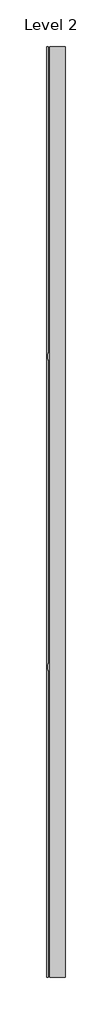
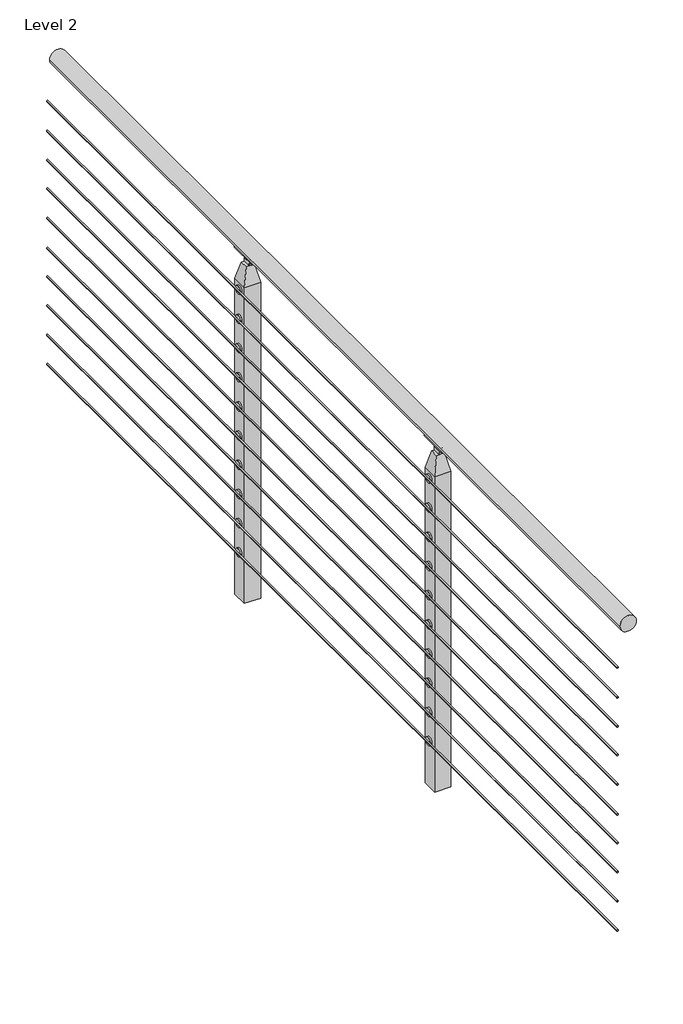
# One storey, part 6 of 17: 1 railing.
"""IFC4 building model written with IfcOpenShell, lengths in millimetres."""

from ifc_helpers import new_model, si_unit, point, frame, frame_2d, origin, place, context, project, spatial, polyline, circle_curve, trimmed, segment, composite_curve, outline, extrude, faceted_brep, element, save
from ifc_brep_helpers import plane_surface, cylinder_surface, revolved_surface, advanced_brep

model = new_model("IFC4")

# Units and contexts
model_context = context("Model", 3, world=origin())
ifc_project = project(units=[si_unit("LENGTHUNIT", "METRE", prefix="MILLI")], contexts=[model_context])

# Site, building, storey
site = spatial("IfcSite", under=ifc_project)
building = spatial("IfcBuilding", under=site)
storey = spatial("IfcBuildingStorey", under=building, Name="Level 2", Elevation=3048.0)

# Railing
placement = place(None, origin())
element("IfcRailing", 1, ObjectType="VIVA-CUBE-Multiline-Cable-Weld Mount-Straight", at=placement, inside=storey, context=model_context, shape_type="SolidModel", body=[
    extrude(outline(composite_curve([segment(trimmed(circle_curve(frame_2d((4102.1, 46488.1572927)), 25.4), [point((4102.1, 46513.5572927))], [point((4102.1, 46462.7572927))], False, "CARTESIAN"), True, "CONTINUOUS"), segment(trimmed(circle_curve(frame_2d((4102.1, 46488.1572927)), 25.4), [point((4102.1, 46462.7572927))], [point((4102.1, 46513.5572927))], False, "CARTESIAN"), True, "CONTINUOUS")], self_intersect=False)), frame((0.0, -68527.1034511, 0.0), z_axis=(0.0, 1.0, 0.0), x_axis=(0.0, 0.0, 1.0)), (0.0, 0.0, 1.0), 3048.0),
    extrude(outline(composite_curve([segment(trimmed(circle_curve(frame_2d((3970.1724, 46455.1372927)), 2.3876), [point((3970.1724, 46452.7496927))], [point((3970.1724, 46457.5248927))], False, "CARTESIAN"), True, "CONTINUOUS"), segment(trimmed(circle_curve(frame_2d((3970.1724, 46455.1372927)), 2.3876), [point((3970.1724, 46457.5248927))], [point((3970.1724, 46452.7496927))], False, "CARTESIAN"), True, "CONTINUOUS")], self_intersect=False)), frame((0.0, -68527.1034511, 0.0), z_axis=(0.0, 1.0, 0.0), x_axis=(0.0, 0.0, 1.0)), (0.0, 0.0, 1.0), 3048.0),
    extrude(outline(composite_curve([segment(trimmed(circle_curve(frame_2d((3872.3824, 46455.1372927)), 2.3876), [point((3872.3824, 46452.7496927))], [point((3872.3824, 46457.5248927))], False, "CARTESIAN"), True, "CONTINUOUS"), segment(trimmed(circle_curve(frame_2d((3872.3824, 46455.1372927)), 2.3876), [point((3872.3824, 46457.5248927))], [point((3872.3824, 46452.7496927))], False, "CARTESIAN"), True, "CONTINUOUS")], self_intersect=False)), frame((0.0, -68527.1034511, 0.0), z_axis=(0.0, 1.0, 0.0), x_axis=(0.0, 0.0, 1.0)), (0.0, 0.0, 1.0), 3048.0),
    extrude(outline(composite_curve([segment(trimmed(circle_curve(frame_2d((3777.1324, 46455.1372927)), 2.3876), [point((3777.1324, 46452.7496927))], [point((3777.1324, 46457.5248927))], False, "CARTESIAN"), True, "CONTINUOUS"), segment(trimmed(circle_curve(frame_2d((3777.1324, 46455.1372927)), 2.3876), [point((3777.1324, 46457.5248927))], [point((3777.1324, 46452.7496927))], False, "CARTESIAN"), True, "CONTINUOUS")], self_intersect=False)), frame((0.0, -68527.1034511, 0.0), z_axis=(0.0, 1.0, 0.0), x_axis=(0.0, 0.0, 1.0)), (0.0, 0.0, 1.0), 3048.0),
    extrude(outline(composite_curve([segment(trimmed(circle_curve(frame_2d((3684.4224, 46455.1372927)), 2.3876), [point((3684.4224, 46452.7496927))], [point((3684.4224, 46457.5248927))], False, "CARTESIAN"), True, "CONTINUOUS"), segment(trimmed(circle_curve(frame_2d((3684.4224, 46455.1372927)), 2.3876), [point((3684.4224, 46457.5248927))], [point((3684.4224, 46452.7496927))], False, "CARTESIAN"), True, "CONTINUOUS")], self_intersect=False)), frame((0.0, -68527.1034511, 0.0), z_axis=(0.0, 1.0, 0.0), x_axis=(0.0, 0.0, 1.0)), (0.0, 0.0, 1.0), 3048.0),
    extrude(outline(composite_curve([segment(trimmed(circle_curve(frame_2d((3587.9024, 46455.1372927)), 2.3876), [point((3587.9024, 46452.7496927))], [point((3587.9024, 46457.5248927))], False, "CARTESIAN"), True, "CONTINUOUS"), segment(trimmed(circle_curve(frame_2d((3587.9024, 46455.1372927)), 2.3876), [point((3587.9024, 46457.5248927))], [point((3587.9024, 46452.7496927))], False, "CARTESIAN"), True, "CONTINUOUS")], self_intersect=False)), frame((0.0, -68527.1034511, 0.0), z_axis=(0.0, 1.0, 0.0), x_axis=(0.0, 0.0, 1.0)), (0.0, 0.0, 1.0), 3048.0),
    extrude(outline(composite_curve([segment(trimmed(circle_curve(frame_2d((3490.1124, 46455.1372927)), 2.3876), [point((3490.1124, 46452.7496927))], [point((3490.1124, 46457.5248927))], False, "CARTESIAN"), True, "CONTINUOUS"), segment(trimmed(circle_curve(frame_2d((3490.1124, 46455.1372927)), 2.3876), [point((3490.1124, 46457.5248927))], [point((3490.1124, 46452.7496927))], False, "CARTESIAN"), True, "CONTINUOUS")], self_intersect=False)), frame((0.0, -68527.1034511, 0.0), z_axis=(0.0, 1.0, 0.0), x_axis=(0.0, 0.0, 1.0)), (0.0, 0.0, 1.0), 3048.0),
    extrude(outline(composite_curve([segment(trimmed(circle_curve(frame_2d((3397.4024, 46455.1372927)), 2.3876), [point((3397.4024, 46452.7496927))], [point((3397.4024, 46457.5248927))], False, "CARTESIAN"), True, "CONTINUOUS"), segment(trimmed(circle_curve(frame_2d((3397.4024, 46455.1372927)), 2.3876), [point((3397.4024, 46457.5248927))], [point((3397.4024, 46452.7496927))], False, "CARTESIAN"), True, "CONTINUOUS")], self_intersect=False)), frame((0.0, -68527.1034511, 0.0), z_axis=(0.0, 1.0, 0.0), x_axis=(0.0, 0.0, 1.0)), (0.0, 0.0, 1.0), 3048.0),
    extrude(outline(composite_curve([segment(trimmed(circle_curve(frame_2d((3302.1524, 46455.1372927)), 2.3876), [point((3302.1524, 46452.7496927))], [point((3302.1524, 46457.5248927))], False, "CARTESIAN"), True, "CONTINUOUS"), segment(trimmed(circle_curve(frame_2d((3302.1524, 46455.1372927)), 2.3876), [point((3302.1524, 46457.5248927))], [point((3302.1524, 46452.7496927))], False, "CARTESIAN"), True, "CONTINUOUS")], self_intersect=False)), frame((0.0, -68527.1034511, 0.0), z_axis=(0.0, 1.0, 0.0), x_axis=(0.0, 0.0, 1.0)), (0.0, 0.0, 1.0), 3048.0),
    extrude(outline(composite_curve([segment(trimmed(circle_curve(frame_2d((3206.9024, 46455.1372927)), 2.3876), [point((3206.9024, 46452.7496927))], [point((3206.9024, 46457.5248927))], False, "CARTESIAN"), True, "CONTINUOUS"), segment(trimmed(circle_curve(frame_2d((3206.9024, 46455.1372927)), 2.3876), [point((3206.9024, 46457.5248927))], [point((3206.9024, 46452.7496927))], False, "CARTESIAN"), True, "CONTINUOUS")], self_intersect=False)), frame((0.0, -68527.1034511, 0.0), z_axis=(0.0, 1.0, 0.0), x_axis=(0.0, 0.0, 1.0)), (0.0, 0.0, 1.0), 3048.0),
    extrude(outline(composite_curve([segment(trimmed(circle_curve(frame_2d((3111.6524, 46455.1372927)), 2.3876), [point((3111.6524, 46452.7496927))], [point((3111.6524, 46457.5248927))], False, "CARTESIAN"), True, "CONTINUOUS"), segment(trimmed(circle_curve(frame_2d((3111.6524, 46455.1372927)), 2.3876), [point((3111.6524, 46457.5248927))], [point((3111.6524, 46452.7496927))], False, "CARTESIAN"), True, "CONTINUOUS")], self_intersect=False)), frame((0.0, -68527.1034511, 0.0), z_axis=(0.0, 1.0, 0.0), x_axis=(0.0, 0.0, 1.0)), (0.0, 0.0, 1.0), 3048.0),
    advanced_brep(
    [(46457.4141185, -66481.6432432, 3111.5), (46457.4141185, -66506.9761591, 3111.5), (46457.4141185, -66494.3097011, 3111.5), (46462.7481185, -66481.6432432, 3111.5), (46462.7481185, -66506.9761591, 3111.5), (46462.7481185, -66494.3097011, 3111.5)],
    [
        (0, 1, circle_curve(frame((46457.4141185, -66494.3097011, 3111.5), z_axis=(-1.0, 0.0, 0.0), x_axis=(0.0, -1.0, 0.0)), 12.666458)),
        (1, 2),
        (2, 0),
        (1, 0, circle_curve(frame((46457.4141185, -66494.3097011, 3111.5), z_axis=(-1.0, 0.0, 0.0), x_axis=(0.0, -1.0, 0.0)), 12.666458)),
        (3, 4, circle_curve(frame((46462.7481185, -66494.3097011, 3111.5), z_axis=(-1.0, 0.0, 0.0), x_axis=(0.0, -1.0, 0.0)), 12.666458)),
        (4, 1),
        (0, 3),
        (4, 3, circle_curve(frame((46462.7481185, -66494.3097011, 3111.5), z_axis=(-1.0, 0.0, 0.0), x_axis=(0.0, -1.0, 0.0)), 12.666458)),
        (5, 4),
        (3, 5),
    ],
    [
        plane_surface(frame((46457.4141185, -66494.3097011, 3111.5), z_axis=(-1.0, 0.0, 0.0), x_axis=(0.0, -1.0, 0.0))),
        cylinder_surface(frame((46589.7572927, -66494.3097011, 3111.5), z_axis=(1.0, 0.0, 0.0), x_axis=(0.0, -1.0, 0.0)), 12.666458),
        plane_surface(frame((46462.7481185, -66494.3097011, 3111.5), z_axis=(1.0, 0.0, 0.0), x_axis=(0.0, -1.0, 0.0))),
    ],
    [
        (0, [[1, 2, 3]]),
        (0, [[4, -3, -2]]),
        (1, [[5, 6, -1, 7]]),
        (1, [[8, -7, -4, -6]]),
        (2, [[9, -5, 10]]),
        (2, [[-10, -8, -9]]),
    ],
),
    advanced_brep(
    [(46457.4141185, -66481.6432432, 3206.75), (46457.4141185, -66506.9761591, 3206.75), (46457.4141185, -66494.3097011, 3206.75), (46462.7481185, -66481.6432432, 3206.75), (46462.7481185, -66506.9761591, 3206.75), (46462.7481185, -66494.3097011, 3206.75)],
    [
        (0, 1, circle_curve(frame((46457.4141185, -66494.3097011, 3206.75), z_axis=(-1.0, 0.0, 0.0), x_axis=(0.0, -1.0, 0.0)), 12.666458)),
        (1, 2),
        (2, 0),
        (1, 0, circle_curve(frame((46457.4141185, -66494.3097011, 3206.75), z_axis=(-1.0, 0.0, 0.0), x_axis=(0.0, -1.0, 0.0)), 12.666458)),
        (3, 4, circle_curve(frame((46462.7481185, -66494.3097011, 3206.75), z_axis=(-1.0, 0.0, 0.0), x_axis=(0.0, -1.0, 0.0)), 12.666458)),
        (4, 1),
        (0, 3),
        (4, 3, circle_curve(frame((46462.7481185, -66494.3097011, 3206.75), z_axis=(-1.0, 0.0, 0.0), x_axis=(0.0, -1.0, 0.0)), 12.666458)),
        (5, 4),
        (3, 5),
    ],
    [
        plane_surface(frame((46457.4141185, -66494.3097011, 3206.75), z_axis=(-1.0, 0.0, 0.0), x_axis=(0.0, -1.0, 0.0))),
        cylinder_surface(frame((46589.7572927, -66494.3097011, 3206.75), z_axis=(1.0, 0.0, 0.0), x_axis=(0.0, -1.0, 0.0)), 12.666458),
        plane_surface(frame((46462.7481185, -66494.3097011, 3206.75), z_axis=(1.0, 0.0, 0.0), x_axis=(0.0, -1.0, 0.0))),
    ],
    [
        (0, [[1, 2, 3]]),
        (0, [[4, -3, -2]]),
        (1, [[5, 6, -1, 7]]),
        (1, [[8, -7, -4, -6]]),
        (2, [[9, -5, 10]]),
        (2, [[-10, -8, -9]]),
    ],
),
    advanced_brep(
    [(46457.4141185, -66481.6432432, 3302.0), (46457.4141185, -66506.9761591, 3302.0), (46457.4141185, -66494.3097011, 3302.0), (46462.7481185, -66481.6432432, 3302.0), (46462.7481185, -66506.9761591, 3302.0), (46462.7481185, -66494.3097011, 3302.0)],
    [
        (0, 1, circle_curve(frame((46457.4141185, -66494.3097011, 3302.0), z_axis=(-1.0, 0.0, 0.0), x_axis=(0.0, -1.0, 0.0)), 12.666458)),
        (1, 2),
        (2, 0),
        (1, 0, circle_curve(frame((46457.4141185, -66494.3097011, 3302.0), z_axis=(-1.0, 0.0, 0.0), x_axis=(0.0, -1.0, 0.0)), 12.666458)),
        (3, 4, circle_curve(frame((46462.7481185, -66494.3097011, 3302.0), z_axis=(-1.0, 0.0, 0.0), x_axis=(0.0, -1.0, 0.0)), 12.666458)),
        (4, 1),
        (0, 3),
        (4, 3, circle_curve(frame((46462.7481185, -66494.3097011, 3302.0), z_axis=(-1.0, 0.0, 0.0), x_axis=(0.0, -1.0, 0.0)), 12.666458)),
        (5, 4),
        (3, 5),
    ],
    [
        plane_surface(frame((46457.4141185, -66494.3097011, 3302.0), z_axis=(-1.0, 0.0, 0.0), x_axis=(0.0, -1.0, 0.0))),
        cylinder_surface(frame((46589.7572927, -66494.3097011, 3302.0), z_axis=(1.0, 0.0, 0.0), x_axis=(0.0, -1.0, 0.0)), 12.666458),
        plane_surface(frame((46462.7481185, -66494.3097011, 3302.0), z_axis=(1.0, 0.0, 0.0), x_axis=(0.0, -1.0, 0.0))),
    ],
    [
        (0, [[1, 2, 3]]),
        (0, [[4, -3, -2]]),
        (1, [[5, 6, -1, 7]]),
        (1, [[8, -7, -4, -6]]),
        (2, [[9, -5, 10]]),
        (2, [[-10, -8, -9]]),
    ],
),
    advanced_brep(
    [(46457.4141185, -66481.6432432, 3397.25), (46457.4141185, -66506.9761591, 3397.25), (46457.4141185, -66494.3097011, 3397.25), (46462.7481185, -66481.6432432, 3397.25), (46462.7481185, -66506.9761591, 3397.25), (46462.7481185, -66494.3097011, 3397.25)],
    [
        (0, 1, circle_curve(frame((46457.4141185, -66494.3097011, 3397.25), z_axis=(-1.0, 0.0, 0.0), x_axis=(0.0, -1.0, 0.0)), 12.666458)),
        (1, 2),
        (2, 0),
        (1, 0, circle_curve(frame((46457.4141185, -66494.3097011, 3397.25), z_axis=(-1.0, 0.0, 0.0), x_axis=(0.0, -1.0, 0.0)), 12.666458)),
        (3, 4, circle_curve(frame((46462.7481185, -66494.3097011, 3397.25), z_axis=(-1.0, 0.0, 0.0), x_axis=(0.0, -1.0, 0.0)), 12.666458)),
        (4, 1),
        (0, 3),
        (4, 3, circle_curve(frame((46462.7481185, -66494.3097011, 3397.25), z_axis=(-1.0, 0.0, 0.0), x_axis=(0.0, -1.0, 0.0)), 12.666458)),
        (5, 4),
        (3, 5),
    ],
    [
        plane_surface(frame((46457.4141185, -66494.3097011, 3397.25), z_axis=(-1.0, 0.0, 0.0), x_axis=(0.0, -1.0, 0.0))),
        cylinder_surface(frame((46589.7572927, -66494.3097011, 3397.25), z_axis=(1.0, 0.0, 0.0), x_axis=(0.0, -1.0, 0.0)), 12.666458),
        plane_surface(frame((46462.7481185, -66494.3097011, 3397.25), z_axis=(1.0, 0.0, 0.0), x_axis=(0.0, -1.0, 0.0))),
    ],
    [
        (0, [[1, 2, 3]]),
        (0, [[4, -3, -2]]),
        (1, [[5, 6, -1, 7]]),
        (1, [[8, -7, -4, -6]]),
        (2, [[9, -5, 10]]),
        (2, [[-10, -8, -9]]),
    ],
),
    advanced_brep(
    [(46457.4141185, -66481.6432432, 3492.5), (46457.4141185, -66506.9761591, 3492.5), (46457.4141185, -66494.3097011, 3492.5), (46462.7481185, -66481.6432432, 3492.5), (46462.7481185, -66506.9761591, 3492.5), (46462.7481185, -66494.3097011, 3492.5)],
    [
        (0, 1, circle_curve(frame((46457.4141185, -66494.3097011, 3492.5), z_axis=(-1.0, 0.0, 0.0), x_axis=(0.0, -1.0, 0.0)), 12.666458)),
        (1, 2),
        (2, 0),
        (1, 0, circle_curve(frame((46457.4141185, -66494.3097011, 3492.5), z_axis=(-1.0, 0.0, 0.0), x_axis=(0.0, -1.0, 0.0)), 12.666458)),
        (3, 4, circle_curve(frame((46462.7481185, -66494.3097011, 3492.5), z_axis=(-1.0, 0.0, 0.0), x_axis=(0.0, -1.0, 0.0)), 12.666458)),
        (4, 1),
        (0, 3),
        (4, 3, circle_curve(frame((46462.7481185, -66494.3097011, 3492.5), z_axis=(-1.0, 0.0, 0.0), x_axis=(0.0, -1.0, 0.0)), 12.666458)),
        (5, 4),
        (3, 5),
    ],
    [
        plane_surface(frame((46457.4141185, -66494.3097011, 3492.5), z_axis=(-1.0, 0.0, 0.0), x_axis=(0.0, -1.0, 0.0))),
        cylinder_surface(frame((46589.7572927, -66494.3097011, 3492.5), z_axis=(1.0, 0.0, 0.0), x_axis=(0.0, -1.0, 0.0)), 12.666458),
        plane_surface(frame((46462.7481185, -66494.3097011, 3492.5), z_axis=(1.0, 0.0, 0.0), x_axis=(0.0, -1.0, 0.0))),
    ],
    [
        (0, [[1, 2, 3]]),
        (0, [[4, -3, -2]]),
        (1, [[5, 6, -1, 7]]),
        (1, [[8, -7, -4, -6]]),
        (2, [[9, -5, 10]]),
        (2, [[-10, -8, -9]]),
    ],
),
    advanced_brep(
    [(46457.4141185, -66481.6432432, 3587.75), (46457.4141185, -66506.9761591, 3587.75), (46457.4141185, -66494.3097011, 3587.75), (46462.7481185, -66481.6432432, 3587.75), (46462.7481185, -66506.9761591, 3587.75), (46462.7481185, -66494.3097011, 3587.75)],
    [
        (0, 1, circle_curve(frame((46457.4141185, -66494.3097011, 3587.75), z_axis=(-1.0, 0.0, 0.0), x_axis=(0.0, -1.0, 0.0)), 12.666458)),
        (1, 2),
        (2, 0),
        (1, 0, circle_curve(frame((46457.4141185, -66494.3097011, 3587.75), z_axis=(-1.0, 0.0, 0.0), x_axis=(0.0, -1.0, 0.0)), 12.666458)),
        (3, 4, circle_curve(frame((46462.7481185, -66494.3097011, 3587.75), z_axis=(-1.0, 0.0, 0.0), x_axis=(0.0, -1.0, 0.0)), 12.666458)),
        (4, 1),
        (0, 3),
        (4, 3, circle_curve(frame((46462.7481185, -66494.3097011, 3587.75), z_axis=(-1.0, 0.0, 0.0), x_axis=(0.0, -1.0, 0.0)), 12.666458)),
        (5, 4),
        (3, 5),
    ],
    [
        plane_surface(frame((46457.4141185, -66494.3097011, 3587.75), z_axis=(-1.0, 0.0, 0.0), x_axis=(0.0, -1.0, 0.0))),
        cylinder_surface(frame((46589.7572927, -66494.3097011, 3587.75), z_axis=(1.0, 0.0, 0.0), x_axis=(0.0, -1.0, 0.0)), 12.666458),
        plane_surface(frame((46462.7481185, -66494.3097011, 3587.75), z_axis=(1.0, 0.0, 0.0), x_axis=(0.0, -1.0, 0.0))),
    ],
    [
        (0, [[1, 2, 3]]),
        (0, [[4, -3, -2]]),
        (1, [[5, 6, -1, 7]]),
        (1, [[8, -7, -4, -6]]),
        (2, [[9, -5, 10]]),
        (2, [[-10, -8, -9]]),
    ],
),
    advanced_brep(
    [(46457.4141185, -66481.6432432, 3683.0), (46457.4141185, -66506.9761591, 3683.0), (46457.4141185, -66494.3097011, 3683.0), (46462.7481185, -66481.6432432, 3683.0), (46462.7481185, -66506.9761591, 3683.0), (46462.7481185, -66494.3097011, 3683.0)],
    [
        (0, 1, circle_curve(frame((46457.4141185, -66494.3097011, 3683.0), z_axis=(-1.0, 0.0, 0.0), x_axis=(0.0, -1.0, 0.0)), 12.666458)),
        (1, 2),
        (2, 0),
        (1, 0, circle_curve(frame((46457.4141185, -66494.3097011, 3683.0), z_axis=(-1.0, 0.0, 0.0), x_axis=(0.0, -1.0, 0.0)), 12.666458)),
        (3, 4, circle_curve(frame((46462.7481185, -66494.3097011, 3683.0), z_axis=(-1.0, 0.0, 0.0), x_axis=(0.0, -1.0, 0.0)), 12.666458)),
        (4, 1),
        (0, 3),
        (4, 3, circle_curve(frame((46462.7481185, -66494.3097011, 3683.0), z_axis=(-1.0, 0.0, 0.0), x_axis=(0.0, -1.0, 0.0)), 12.666458)),
        (5, 4),
        (3, 5),
    ],
    [
        plane_surface(frame((46457.4141185, -66494.3097011, 3683.0), z_axis=(-1.0, 0.0, 0.0), x_axis=(0.0, -1.0, 0.0))),
        cylinder_surface(frame((46589.7572927, -66494.3097011, 3683.0), z_axis=(1.0, 0.0, 0.0), x_axis=(0.0, -1.0, 0.0)), 12.666458),
        plane_surface(frame((46462.7481185, -66494.3097011, 3683.0), z_axis=(1.0, 0.0, 0.0), x_axis=(0.0, -1.0, 0.0))),
    ],
    [
        (0, [[1, 2, 3]]),
        (0, [[4, -3, -2]]),
        (1, [[5, 6, -1, 7]]),
        (1, [[8, -7, -4, -6]]),
        (2, [[9, -5, 10]]),
        (2, [[-10, -8, -9]]),
    ],
),
    advanced_brep(
    [(46457.4141185, -66481.6432432, 3778.25), (46457.4141185, -66506.9761591, 3778.25), (46457.4141185, -66494.3097011, 3778.25), (46462.7481185, -66481.6432432, 3778.25), (46462.7481185, -66506.9761591, 3778.25), (46462.7481185, -66494.3097011, 3778.25)],
    [
        (0, 1, circle_curve(frame((46457.4141185, -66494.3097011, 3778.25), z_axis=(-1.0, 0.0, 0.0), x_axis=(0.0, -1.0, 0.0)), 12.666458)),
        (1, 2),
        (2, 0),
        (1, 0, circle_curve(frame((46457.4141185, -66494.3097011, 3778.25), z_axis=(-1.0, 0.0, 0.0), x_axis=(0.0, -1.0, 0.0)), 12.666458)),
        (3, 4, circle_curve(frame((46462.7481185, -66494.3097011, 3778.25), z_axis=(-1.0, 0.0, 0.0), x_axis=(0.0, -1.0, 0.0)), 12.666458)),
        (4, 1),
        (0, 3),
        (4, 3, circle_curve(frame((46462.7481185, -66494.3097011, 3778.25), z_axis=(-1.0, 0.0, 0.0), x_axis=(0.0, -1.0, 0.0)), 12.666458)),
        (5, 4),
        (3, 5),
    ],
    [
        plane_surface(frame((46457.4141185, -66494.3097011, 3778.25), z_axis=(-1.0, 0.0, 0.0), x_axis=(0.0, -1.0, 0.0))),
        cylinder_surface(frame((46589.7572927, -66494.3097011, 3778.25), z_axis=(1.0, 0.0, 0.0), x_axis=(0.0, -1.0, 0.0)), 12.666458),
        plane_surface(frame((46462.7481185, -66494.3097011, 3778.25), z_axis=(1.0, 0.0, 0.0), x_axis=(0.0, -1.0, 0.0))),
    ],
    [
        (0, [[1, 2, 3]]),
        (0, [[4, -3, -2]]),
        (1, [[5, 6, -1, 7]]),
        (1, [[8, -7, -4, -6]]),
        (2, [[9, -5, 10]]),
        (2, [[-10, -8, -9]]),
    ],
),
    advanced_brep(
    [(46457.4141185, -66481.6432432, 3873.5), (46457.4141185, -66506.9761591, 3873.5), (46457.4141185, -66494.3097011, 3873.5), (46462.7481185, -66481.6432432, 3873.5), (46462.7481185, -66506.9761591, 3873.5), (46462.7481185, -66494.3097011, 3873.5)],
    [
        (0, 1, circle_curve(frame((46457.4141185, -66494.3097011, 3873.5), z_axis=(-1.0, 0.0, 0.0), x_axis=(0.0, -1.0, 0.0)), 12.666458)),
        (1, 2),
        (2, 0),
        (1, 0, circle_curve(frame((46457.4141185, -66494.3097011, 3873.5), z_axis=(-1.0, 0.0, 0.0), x_axis=(0.0, -1.0, 0.0)), 12.666458)),
        (3, 4, circle_curve(frame((46462.7481185, -66494.3097011, 3873.5), z_axis=(-1.0, 0.0, 0.0), x_axis=(0.0, -1.0, 0.0)), 12.666458)),
        (4, 1),
        (0, 3),
        (4, 3, circle_curve(frame((46462.7481185, -66494.3097011, 3873.5), z_axis=(-1.0, 0.0, 0.0), x_axis=(0.0, -1.0, 0.0)), 12.666458)),
        (5, 4),
        (3, 5),
    ],
    [
        plane_surface(frame((46457.4141185, -66494.3097011, 3873.5), z_axis=(-1.0, 0.0, 0.0), x_axis=(0.0, -1.0, 0.0))),
        cylinder_surface(frame((46589.7572927, -66494.3097011, 3873.5), z_axis=(1.0, 0.0, 0.0), x_axis=(0.0, -1.0, 0.0)), 12.666458),
        plane_surface(frame((46462.7481185, -66494.3097011, 3873.5), z_axis=(1.0, 0.0, 0.0), x_axis=(0.0, -1.0, 0.0))),
    ],
    [
        (0, [[1, 2, 3]]),
        (0, [[4, -3, -2]]),
        (1, [[5, 6, -1, 7]]),
        (1, [[8, -7, -4, -6]]),
        (2, [[9, -5, 10]]),
        (2, [[-10, -8, -9]]),
    ],
),
    advanced_brep(
    [(46457.4141185, -66481.6432432, 3968.75), (46457.4141185, -66506.9761591, 3968.75), (46457.4141185, -66494.3097011, 3968.75), (46462.7481185, -66481.6432432, 3968.75), (46462.7481185, -66506.9761591, 3968.75), (46462.7481185, -66494.3097011, 3968.75)],
    [
        (0, 1, circle_curve(frame((46457.4141185, -66494.3097011, 3968.75), z_axis=(-1.0, 0.0, 0.0), x_axis=(0.0, -1.0, 0.0)), 12.666458)),
        (1, 2),
        (2, 0),
        (1, 0, circle_curve(frame((46457.4141185, -66494.3097011, 3968.75), z_axis=(-1.0, 0.0, 0.0), x_axis=(0.0, -1.0, 0.0)), 12.666458)),
        (3, 4, circle_curve(frame((46462.7481185, -66494.3097011, 3968.75), z_axis=(-1.0, 0.0, 0.0), x_axis=(0.0, -1.0, 0.0)), 12.666458)),
        (4, 1),
        (0, 3),
        (4, 3, circle_curve(frame((46462.7481185, -66494.3097011, 3968.75), z_axis=(-1.0, 0.0, 0.0), x_axis=(0.0, -1.0, 0.0)), 12.666458)),
        (5, 4),
        (3, 5),
    ],
    [
        plane_surface(frame((46457.4141185, -66494.3097011, 3968.75), z_axis=(-1.0, 0.0, 0.0), x_axis=(0.0, -1.0, 0.0))),
        cylinder_surface(frame((46589.7572927, -66494.3097011, 3968.75), z_axis=(1.0, 0.0, 0.0), x_axis=(0.0, -1.0, 0.0)), 12.666458),
        plane_surface(frame((46462.7481185, -66494.3097011, 3968.75), z_axis=(1.0, 0.0, 0.0), x_axis=(0.0, -1.0, 0.0))),
    ],
    [
        (0, [[1, 2, 3]]),
        (0, [[4, -3, -2]]),
        (1, [[5, 6, -1, 7]]),
        (1, [[8, -7, -4, -6]]),
        (2, [[9, -5, 10]]),
        (2, [[-10, -8, -9]]),
    ],
),
    faceted_brep([(46475.4572927, -66482.0065761, 4045.2902749), (46475.4572927, -66507.4065761, 4045.2902749), (46484.1885427, -66507.4065761, 4045.2902749), (46484.1885427, -66482.0065761, 4045.2902749), (46500.8572927, -66507.4065761, 4045.2902749), (46500.8572927, -66482.0065761, 4045.2902749), (46492.1260427, -66482.0065761, 4045.2902749), (46492.1260427, -66507.4065761, 4045.2902749), (46462.7572927, -66469.3065761, 3989.1347854), (46513.5572927, -66469.3065761, 3989.1347854), (46462.7572927, -66520.1065761, 3989.1347854), (46513.5572927, -66520.1065761, 3989.1347854), (46462.7572927, -66469.3065761, 2959.1), (46513.5572927, -66469.3065761, 2959.1), (46513.5572927, -66520.1065761, 2959.1), (46462.7572927, -66520.1065761, 2959.1), (46492.1260427, -66507.4065761, 4057.3306013), (46492.1260427, -66482.0065761, 4057.3306013), (46484.1885427, -66482.0065761, 4057.3306013), (46484.1885427, -66507.4065761, 4057.3306013)], [[[0, 1, 2, 3]], [[4, 5, 6, 7]], [[8, 0, 3, 6, 5, 9]], [[1, 0, 8, 10]], [[1, 10, 11, 4, 7, 2]], [[5, 4, 11, 9]], [[12, 13, 14, 15]], [[12, 15, 10, 8]], [[15, 14, 11, 10]], [[14, 13, 9, 11]], [[13, 12, 8, 9]], [[16, 17, 18, 19]], [[17, 16, 7, 6]], [[18, 17, 6, 3]], [[19, 18, 3, 2]], [[16, 19, 2, 7]]]),
    extrude(outline(composite_curve([segment(trimmed(circle_curve(frame_2d((4102.1433184, 46488.0605643)), 25.4345159), [point((4080.0284941, 46500.6243672))], [point((4079.9335733, 46475.6653306))], True, "CARTESIAN"), True, "CONTINUOUS"), segment(trimmed(circle_curve(frame_2d((4077.4310885, 46474.4206774)), 2.7949225), [point((4079.9335733, 46475.6653306))], [point((4075.0585031, 46472.9433724))], False, "CARTESIAN"), True, "CONTINUOUS"), segment(trimmed(circle_curve(frame_2d((4102.905945, 46488.1940274)), 31.75), [point((4075.0585031, 46472.9433724))], [point((4075.6392616, 46504.4602646))], False, "CARTESIAN"), True, "CONTINUOUS"), segment(trimmed(circle_curve(frame_2d((4077.5101807, 46502.1719249)), 2.9558141), [point((4075.6392616, 46504.4602646))], [point((4080.0284941, 46500.6243672))], False, "CARTESIAN"), True, "CONTINUOUS")], self_intersect=False)), frame((0.0, -66539.9439761, 0.0), z_axis=(0.0, 1.0, 0.0), x_axis=(0.0, 0.0, 1.0)), (0.0, 0.0, 1.0), 90.4748),
    advanced_brep(
    [(46485.6172927, -66467.6386612, 4071.3685171), (46485.6172927, -66482.0065761, 4057.0006022), (46485.6172927, -66507.4065761, 4057.0006022), (46485.6172927, -66521.774491, 4071.3685171), (46490.6972927, -66467.6386612, 4071.3685171), (46490.6972927, -66521.774491, 4071.3685171), (46490.6972927, -66507.4065761, 4057.0006022), (46490.6972927, -66482.0065761, 4057.0006022)],
    [
        (0, 1, circle_curve(frame((46485.6172927, -66467.6386612, 4057.0006022), z_axis=(1.0, 0.0, 0.0), x_axis=(0.0, -1.0, 0.0)), 14.3679149)),
        (1, 2, circle_curve(frame((46485.6172927, -66494.7065761, 4057.0006022), z_axis=(-1.0, 0.0, 0.0), x_axis=(0.0, -1.0, 0.0)), 12.7)),
        (2, 3, circle_curve(frame((46485.6172927, -66521.774491, 4057.0006022), z_axis=(1.0, 0.0, 0.0), x_axis=(0.0, -1.0, 0.0)), 14.3679149)),
        (3, 0),
        (4, 5),
        (5, 6, circle_curve(frame((46490.6972927, -66521.774491, 4057.0006022), z_axis=(-1.0, 0.0, 0.0), x_axis=(0.0, -1.0, 0.0)), 14.3679149)),
        (6, 7, circle_curve(frame((46490.6972927, -66494.7065761, 4057.0006022), z_axis=(1.0, 0.0, 0.0), x_axis=(0.0, -1.0, 0.0)), 12.7)),
        (7, 4, circle_curve(frame((46490.6972927, -66467.6386612, 4057.0006022), z_axis=(-1.0, 0.0, 0.0), x_axis=(0.0, -1.0, 0.0)), 14.3679149)),
        (0, 4),
        (7, 1),
        (6, 2),
        (5, 3),
    ],
    [
        plane_surface(frame((46485.6172927, -66482.0065761, 4057.0006022), z_axis=(-1.0, 0.0, 0.0), x_axis=(0.0, 0.0, -1.0))),
        plane_surface(frame((46490.6972927, -66482.0065761, 4057.0006022), z_axis=(1.0, 0.0, 0.0), x_axis=(0.0, 0.0, 1.0))),
        revolved_surface(polyline([(46490.6972927, -66482.0065761, 4057.0006022), (46485.6172927, -66482.0065761, 4057.0006022)]), (46490.6972927, -66467.6386612, 4057.0006022), (1.0, 0.0, 0.0)),
        cylinder_surface(frame((46490.6972927, -66494.7065761, 4057.0006022), z_axis=(-1.0, 0.0, 0.0), x_axis=(0.0, -1.0, 0.0)), 12.7),
        revolved_surface(polyline([(46490.6972927, -66536.1424059, 4057.0006022), (46485.6172927, -66536.1424059, 4057.0006022)]), (46490.6972927, -66521.774491, 4057.0006022), (1.0, 0.0, 0.0)),
        plane_surface(frame((46485.6172927, -66521.774491, 4071.3685171), z_axis=(0.0, 0.0, 1.0), x_axis=(1.0, 0.0, 0.0))),
    ],
    [
        (0, [[1, 2, 3, 4]]),
        (1, [[5, 6, 7, 8]]),
        (2, [[-1, 9, -8, 10]]),
        (3, [[-2, -10, -7, 11]]),
        (4, [[-3, -11, -6, 12]]),
        (5, [[-4, -12, -5, -9]]),
    ],
),
    advanced_brep(
    [(46457.4141185, -67497.6432432, 3111.5), (46457.4141185, -67522.9761591, 3111.5), (46457.4141185, -67510.3097011, 3111.5), (46462.7481185, -67497.6432432, 3111.5), (46462.7481185, -67522.9761591, 3111.5), (46462.7481185, -67510.3097011, 3111.5)],
    [
        (0, 1, circle_curve(frame((46457.4141185, -67510.3097011, 3111.5), z_axis=(-1.0, 0.0, 0.0), x_axis=(0.0, -1.0, 0.0)), 12.666458)),
        (1, 2),
        (2, 0),
        (1, 0, circle_curve(frame((46457.4141185, -67510.3097011, 3111.5), z_axis=(-1.0, 0.0, 0.0), x_axis=(0.0, -1.0, 0.0)), 12.666458)),
        (3, 4, circle_curve(frame((46462.7481185, -67510.3097011, 3111.5), z_axis=(-1.0, 0.0, 0.0), x_axis=(0.0, -1.0, 0.0)), 12.666458)),
        (4, 1),
        (0, 3),
        (4, 3, circle_curve(frame((46462.7481185, -67510.3097011, 3111.5), z_axis=(-1.0, 0.0, 0.0), x_axis=(0.0, -1.0, 0.0)), 12.666458)),
        (5, 4),
        (3, 5),
    ],
    [
        plane_surface(frame((46457.4141185, -67510.3097011, 3111.5), z_axis=(-1.0, 0.0, 0.0), x_axis=(0.0, -1.0, 0.0))),
        cylinder_surface(frame((46589.7572927, -67510.3097011, 3111.5), z_axis=(1.0, 0.0, 0.0), x_axis=(0.0, -1.0, 0.0)), 12.666458),
        plane_surface(frame((46462.7481185, -67510.3097011, 3111.5), z_axis=(1.0, 0.0, 0.0), x_axis=(0.0, -1.0, 0.0))),
    ],
    [
        (0, [[1, 2, 3]]),
        (0, [[4, -3, -2]]),
        (1, [[5, 6, -1, 7]]),
        (1, [[8, -7, -4, -6]]),
        (2, [[9, -5, 10]]),
        (2, [[-10, -8, -9]]),
    ],
),
    advanced_brep(
    [(46457.4141185, -67497.6432432, 3206.75), (46457.4141185, -67522.9761591, 3206.75), (46457.4141185, -67510.3097011, 3206.75), (46462.7481185, -67497.6432432, 3206.75), (46462.7481185, -67522.9761591, 3206.75), (46462.7481185, -67510.3097011, 3206.75)],
    [
        (0, 1, circle_curve(frame((46457.4141185, -67510.3097011, 3206.75), z_axis=(-1.0, 0.0, 0.0), x_axis=(0.0, -1.0, 0.0)), 12.666458)),
        (1, 2),
        (2, 0),
        (1, 0, circle_curve(frame((46457.4141185, -67510.3097011, 3206.75), z_axis=(-1.0, 0.0, 0.0), x_axis=(0.0, -1.0, 0.0)), 12.666458)),
        (3, 4, circle_curve(frame((46462.7481185, -67510.3097011, 3206.75), z_axis=(-1.0, 0.0, 0.0), x_axis=(0.0, -1.0, 0.0)), 12.666458)),
        (4, 1),
        (0, 3),
        (4, 3, circle_curve(frame((46462.7481185, -67510.3097011, 3206.75), z_axis=(-1.0, 0.0, 0.0), x_axis=(0.0, -1.0, 0.0)), 12.666458)),
        (5, 4),
        (3, 5),
    ],
    [
        plane_surface(frame((46457.4141185, -67510.3097011, 3206.75), z_axis=(-1.0, 0.0, 0.0), x_axis=(0.0, -1.0, 0.0))),
        cylinder_surface(frame((46589.7572927, -67510.3097011, 3206.75), z_axis=(1.0, 0.0, 0.0), x_axis=(0.0, -1.0, 0.0)), 12.666458),
        plane_surface(frame((46462.7481185, -67510.3097011, 3206.75), z_axis=(1.0, 0.0, 0.0), x_axis=(0.0, -1.0, 0.0))),
    ],
    [
        (0, [[1, 2, 3]]),
        (0, [[4, -3, -2]]),
        (1, [[5, 6, -1, 7]]),
        (1, [[8, -7, -4, -6]]),
        (2, [[9, -5, 10]]),
        (2, [[-10, -8, -9]]),
    ],
),
    advanced_brep(
    [(46457.4141185, -67497.6432432, 3302.0), (46457.4141185, -67522.9761591, 3302.0), (46457.4141185, -67510.3097011, 3302.0), (46462.7481185, -67497.6432432, 3302.0), (46462.7481185, -67522.9761591, 3302.0), (46462.7481185, -67510.3097011, 3302.0)],
    [
        (0, 1, circle_curve(frame((46457.4141185, -67510.3097011, 3302.0), z_axis=(-1.0, 0.0, 0.0), x_axis=(0.0, -1.0, 0.0)), 12.666458)),
        (1, 2),
        (2, 0),
        (1, 0, circle_curve(frame((46457.4141185, -67510.3097011, 3302.0), z_axis=(-1.0, 0.0, 0.0), x_axis=(0.0, -1.0, 0.0)), 12.666458)),
        (3, 4, circle_curve(frame((46462.7481185, -67510.3097011, 3302.0), z_axis=(-1.0, 0.0, 0.0), x_axis=(0.0, -1.0, 0.0)), 12.666458)),
        (4, 1),
        (0, 3),
        (4, 3, circle_curve(frame((46462.7481185, -67510.3097011, 3302.0), z_axis=(-1.0, 0.0, 0.0), x_axis=(0.0, -1.0, 0.0)), 12.666458)),
        (5, 4),
        (3, 5),
    ],
    [
        plane_surface(frame((46457.4141185, -67510.3097011, 3302.0), z_axis=(-1.0, 0.0, 0.0), x_axis=(0.0, -1.0, 0.0))),
        cylinder_surface(frame((46589.7572927, -67510.3097011, 3302.0), z_axis=(1.0, 0.0, 0.0), x_axis=(0.0, -1.0, 0.0)), 12.666458),
        plane_surface(frame((46462.7481185, -67510.3097011, 3302.0), z_axis=(1.0, 0.0, 0.0), x_axis=(0.0, -1.0, 0.0))),
    ],
    [
        (0, [[1, 2, 3]]),
        (0, [[4, -3, -2]]),
        (1, [[5, 6, -1, 7]]),
        (1, [[8, -7, -4, -6]]),
        (2, [[9, -5, 10]]),
        (2, [[-10, -8, -9]]),
    ],
),
    advanced_brep(
    [(46457.4141185, -67497.6432432, 3397.25), (46457.4141185, -67522.9761591, 3397.25), (46457.4141185, -67510.3097011, 3397.25), (46462.7481185, -67497.6432432, 3397.25), (46462.7481185, -67522.9761591, 3397.25), (46462.7481185, -67510.3097011, 3397.25)],
    [
        (0, 1, circle_curve(frame((46457.4141185, -67510.3097011, 3397.25), z_axis=(-1.0, 0.0, 0.0), x_axis=(0.0, -1.0, 0.0)), 12.666458)),
        (1, 2),
        (2, 0),
        (1, 0, circle_curve(frame((46457.4141185, -67510.3097011, 3397.25), z_axis=(-1.0, 0.0, 0.0), x_axis=(0.0, -1.0, 0.0)), 12.666458)),
        (3, 4, circle_curve(frame((46462.7481185, -67510.3097011, 3397.25), z_axis=(-1.0, 0.0, 0.0), x_axis=(0.0, -1.0, 0.0)), 12.666458)),
        (4, 1),
        (0, 3),
        (4, 3, circle_curve(frame((46462.7481185, -67510.3097011, 3397.25), z_axis=(-1.0, 0.0, 0.0), x_axis=(0.0, -1.0, 0.0)), 12.666458)),
        (5, 4),
        (3, 5),
    ],
    [
        plane_surface(frame((46457.4141185, -67510.3097011, 3397.25), z_axis=(-1.0, 0.0, 0.0), x_axis=(0.0, -1.0, 0.0))),
        cylinder_surface(frame((46589.7572927, -67510.3097011, 3397.25), z_axis=(1.0, 0.0, 0.0), x_axis=(0.0, -1.0, 0.0)), 12.666458),
        plane_surface(frame((46462.7481185, -67510.3097011, 3397.25), z_axis=(1.0, 0.0, 0.0), x_axis=(0.0, -1.0, 0.0))),
    ],
    [
        (0, [[1, 2, 3]]),
        (0, [[4, -3, -2]]),
        (1, [[5, 6, -1, 7]]),
        (1, [[8, -7, -4, -6]]),
        (2, [[9, -5, 10]]),
        (2, [[-10, -8, -9]]),
    ],
),
    advanced_brep(
    [(46457.4141185, -67497.6432432, 3492.5), (46457.4141185, -67522.9761591, 3492.5), (46457.4141185, -67510.3097011, 3492.5), (46462.7481185, -67497.6432432, 3492.5), (46462.7481185, -67522.9761591, 3492.5), (46462.7481185, -67510.3097011, 3492.5)],
    [
        (0, 1, circle_curve(frame((46457.4141185, -67510.3097011, 3492.5), z_axis=(-1.0, 0.0, 0.0), x_axis=(0.0, -1.0, 0.0)), 12.666458)),
        (1, 2),
        (2, 0),
        (1, 0, circle_curve(frame((46457.4141185, -67510.3097011, 3492.5), z_axis=(-1.0, 0.0, 0.0), x_axis=(0.0, -1.0, 0.0)), 12.666458)),
        (3, 4, circle_curve(frame((46462.7481185, -67510.3097011, 3492.5), z_axis=(-1.0, 0.0, 0.0), x_axis=(0.0, -1.0, 0.0)), 12.666458)),
        (4, 1),
        (0, 3),
        (4, 3, circle_curve(frame((46462.7481185, -67510.3097011, 3492.5), z_axis=(-1.0, 0.0, 0.0), x_axis=(0.0, -1.0, 0.0)), 12.666458)),
        (5, 4),
        (3, 5),
    ],
    [
        plane_surface(frame((46457.4141185, -67510.3097011, 3492.5), z_axis=(-1.0, 0.0, 0.0), x_axis=(0.0, -1.0, 0.0))),
        cylinder_surface(frame((46589.7572927, -67510.3097011, 3492.5), z_axis=(1.0, 0.0, 0.0), x_axis=(0.0, -1.0, 0.0)), 12.666458),
        plane_surface(frame((46462.7481185, -67510.3097011, 3492.5), z_axis=(1.0, 0.0, 0.0), x_axis=(0.0, -1.0, 0.0))),
    ],
    [
        (0, [[1, 2, 3]]),
        (0, [[4, -3, -2]]),
        (1, [[5, 6, -1, 7]]),
        (1, [[8, -7, -4, -6]]),
        (2, [[9, -5, 10]]),
        (2, [[-10, -8, -9]]),
    ],
),
    advanced_brep(
    [(46457.4141185, -67497.6432432, 3587.75), (46457.4141185, -67522.9761591, 3587.75), (46457.4141185, -67510.3097011, 3587.75), (46462.7481185, -67497.6432432, 3587.75), (46462.7481185, -67522.9761591, 3587.75), (46462.7481185, -67510.3097011, 3587.75)],
    [
        (0, 1, circle_curve(frame((46457.4141185, -67510.3097011, 3587.75), z_axis=(-1.0, 0.0, 0.0), x_axis=(0.0, -1.0, 0.0)), 12.666458)),
        (1, 2),
        (2, 0),
        (1, 0, circle_curve(frame((46457.4141185, -67510.3097011, 3587.75), z_axis=(-1.0, 0.0, 0.0), x_axis=(0.0, -1.0, 0.0)), 12.666458)),
        (3, 4, circle_curve(frame((46462.7481185, -67510.3097011, 3587.75), z_axis=(-1.0, 0.0, 0.0), x_axis=(0.0, -1.0, 0.0)), 12.666458)),
        (4, 1),
        (0, 3),
        (4, 3, circle_curve(frame((46462.7481185, -67510.3097011, 3587.75), z_axis=(-1.0, 0.0, 0.0), x_axis=(0.0, -1.0, 0.0)), 12.666458)),
        (5, 4),
        (3, 5),
    ],
    [
        plane_surface(frame((46457.4141185, -67510.3097011, 3587.75), z_axis=(-1.0, 0.0, 0.0), x_axis=(0.0, -1.0, 0.0))),
        cylinder_surface(frame((46589.7572927, -67510.3097011, 3587.75), z_axis=(1.0, 0.0, 0.0), x_axis=(0.0, -1.0, 0.0)), 12.666458),
        plane_surface(frame((46462.7481185, -67510.3097011, 3587.75), z_axis=(1.0, 0.0, 0.0), x_axis=(0.0, -1.0, 0.0))),
    ],
    [
        (0, [[1, 2, 3]]),
        (0, [[4, -3, -2]]),
        (1, [[5, 6, -1, 7]]),
        (1, [[8, -7, -4, -6]]),
        (2, [[9, -5, 10]]),
        (2, [[-10, -8, -9]]),
    ],
),
    advanced_brep(
    [(46457.4141185, -67497.6432432, 3683.0), (46457.4141185, -67522.9761591, 3683.0), (46457.4141185, -67510.3097011, 3683.0), (46462.7481185, -67497.6432432, 3683.0), (46462.7481185, -67522.9761591, 3683.0), (46462.7481185, -67510.3097011, 3683.0)],
    [
        (0, 1, circle_curve(frame((46457.4141185, -67510.3097011, 3683.0), z_axis=(-1.0, 0.0, 0.0), x_axis=(0.0, -1.0, 0.0)), 12.666458)),
        (1, 2),
        (2, 0),
        (1, 0, circle_curve(frame((46457.4141185, -67510.3097011, 3683.0), z_axis=(-1.0, 0.0, 0.0), x_axis=(0.0, -1.0, 0.0)), 12.666458)),
        (3, 4, circle_curve(frame((46462.7481185, -67510.3097011, 3683.0), z_axis=(-1.0, 0.0, 0.0), x_axis=(0.0, -1.0, 0.0)), 12.666458)),
        (4, 1),
        (0, 3),
        (4, 3, circle_curve(frame((46462.7481185, -67510.3097011, 3683.0), z_axis=(-1.0, 0.0, 0.0), x_axis=(0.0, -1.0, 0.0)), 12.666458)),
        (5, 4),
        (3, 5),
    ],
    [
        plane_surface(frame((46457.4141185, -67510.3097011, 3683.0), z_axis=(-1.0, 0.0, 0.0), x_axis=(0.0, -1.0, 0.0))),
        cylinder_surface(frame((46589.7572927, -67510.3097011, 3683.0), z_axis=(1.0, 0.0, 0.0), x_axis=(0.0, -1.0, 0.0)), 12.666458),
        plane_surface(frame((46462.7481185, -67510.3097011, 3683.0), z_axis=(1.0, 0.0, 0.0), x_axis=(0.0, -1.0, 0.0))),
    ],
    [
        (0, [[1, 2, 3]]),
        (0, [[4, -3, -2]]),
        (1, [[5, 6, -1, 7]]),
        (1, [[8, -7, -4, -6]]),
        (2, [[9, -5, 10]]),
        (2, [[-10, -8, -9]]),
    ],
),
    advanced_brep(
    [(46457.4141185, -67497.6432432, 3778.25), (46457.4141185, -67522.9761591, 3778.25), (46457.4141185, -67510.3097011, 3778.25), (46462.7481185, -67497.6432432, 3778.25), (46462.7481185, -67522.9761591, 3778.25), (46462.7481185, -67510.3097011, 3778.25)],
    [
        (0, 1, circle_curve(frame((46457.4141185, -67510.3097011, 3778.25), z_axis=(-1.0, 0.0, 0.0), x_axis=(0.0, -1.0, 0.0)), 12.666458)),
        (1, 2),
        (2, 0),
        (1, 0, circle_curve(frame((46457.4141185, -67510.3097011, 3778.25), z_axis=(-1.0, 0.0, 0.0), x_axis=(0.0, -1.0, 0.0)), 12.666458)),
        (3, 4, circle_curve(frame((46462.7481185, -67510.3097011, 3778.25), z_axis=(-1.0, 0.0, 0.0), x_axis=(0.0, -1.0, 0.0)), 12.666458)),
        (4, 1),
        (0, 3),
        (4, 3, circle_curve(frame((46462.7481185, -67510.3097011, 3778.25), z_axis=(-1.0, 0.0, 0.0), x_axis=(0.0, -1.0, 0.0)), 12.666458)),
        (5, 4),
        (3, 5),
    ],
    [
        plane_surface(frame((46457.4141185, -67510.3097011, 3778.25), z_axis=(-1.0, 0.0, 0.0), x_axis=(0.0, -1.0, 0.0))),
        cylinder_surface(frame((46589.7572927, -67510.3097011, 3778.25), z_axis=(1.0, 0.0, 0.0), x_axis=(0.0, -1.0, 0.0)), 12.666458),
        plane_surface(frame((46462.7481185, -67510.3097011, 3778.25), z_axis=(1.0, 0.0, 0.0), x_axis=(0.0, -1.0, 0.0))),
    ],
    [
        (0, [[1, 2, 3]]),
        (0, [[4, -3, -2]]),
        (1, [[5, 6, -1, 7]]),
        (1, [[8, -7, -4, -6]]),
        (2, [[9, -5, 10]]),
        (2, [[-10, -8, -9]]),
    ],
),
    advanced_brep(
    [(46457.4141185, -67497.6432432, 3873.5), (46457.4141185, -67522.9761591, 3873.5), (46457.4141185, -67510.3097011, 3873.5), (46462.7481185, -67497.6432432, 3873.5), (46462.7481185, -67522.9761591, 3873.5), (46462.7481185, -67510.3097011, 3873.5)],
    [
        (0, 1, circle_curve(frame((46457.4141185, -67510.3097011, 3873.5), z_axis=(-1.0, 0.0, 0.0), x_axis=(0.0, -1.0, 0.0)), 12.666458)),
        (1, 2),
        (2, 0),
        (1, 0, circle_curve(frame((46457.4141185, -67510.3097011, 3873.5), z_axis=(-1.0, 0.0, 0.0), x_axis=(0.0, -1.0, 0.0)), 12.666458)),
        (3, 4, circle_curve(frame((46462.7481185, -67510.3097011, 3873.5), z_axis=(-1.0, 0.0, 0.0), x_axis=(0.0, -1.0, 0.0)), 12.666458)),
        (4, 1),
        (0, 3),
        (4, 3, circle_curve(frame((46462.7481185, -67510.3097011, 3873.5), z_axis=(-1.0, 0.0, 0.0), x_axis=(0.0, -1.0, 0.0)), 12.666458)),
        (5, 4),
        (3, 5),
    ],
    [
        plane_surface(frame((46457.4141185, -67510.3097011, 3873.5), z_axis=(-1.0, 0.0, 0.0), x_axis=(0.0, -1.0, 0.0))),
        cylinder_surface(frame((46589.7572927, -67510.3097011, 3873.5), z_axis=(1.0, 0.0, 0.0), x_axis=(0.0, -1.0, 0.0)), 12.666458),
        plane_surface(frame((46462.7481185, -67510.3097011, 3873.5), z_axis=(1.0, 0.0, 0.0), x_axis=(0.0, -1.0, 0.0))),
    ],
    [
        (0, [[1, 2, 3]]),
        (0, [[4, -3, -2]]),
        (1, [[5, 6, -1, 7]]),
        (1, [[8, -7, -4, -6]]),
        (2, [[9, -5, 10]]),
        (2, [[-10, -8, -9]]),
    ],
),
    advanced_brep(
    [(46457.4141185, -67497.6432432, 3968.75), (46457.4141185, -67522.9761591, 3968.75), (46457.4141185, -67510.3097011, 3968.75), (46462.7481185, -67497.6432432, 3968.75), (46462.7481185, -67522.9761591, 3968.75), (46462.7481185, -67510.3097011, 3968.75)],
    [
        (0, 1, circle_curve(frame((46457.4141185, -67510.3097011, 3968.75), z_axis=(-1.0, 0.0, 0.0), x_axis=(0.0, -1.0, 0.0)), 12.666458)),
        (1, 2),
        (2, 0),
        (1, 0, circle_curve(frame((46457.4141185, -67510.3097011, 3968.75), z_axis=(-1.0, 0.0, 0.0), x_axis=(0.0, -1.0, 0.0)), 12.666458)),
        (3, 4, circle_curve(frame((46462.7481185, -67510.3097011, 3968.75), z_axis=(-1.0, 0.0, 0.0), x_axis=(0.0, -1.0, 0.0)), 12.666458)),
        (4, 1),
        (0, 3),
        (4, 3, circle_curve(frame((46462.7481185, -67510.3097011, 3968.75), z_axis=(-1.0, 0.0, 0.0), x_axis=(0.0, -1.0, 0.0)), 12.666458)),
        (5, 4),
        (3, 5),
    ],
    [
        plane_surface(frame((46457.4141185, -67510.3097011, 3968.75), z_axis=(-1.0, 0.0, 0.0), x_axis=(0.0, -1.0, 0.0))),
        cylinder_surface(frame((46589.7572927, -67510.3097011, 3968.75), z_axis=(1.0, 0.0, 0.0), x_axis=(0.0, -1.0, 0.0)), 12.666458),
        plane_surface(frame((46462.7481185, -67510.3097011, 3968.75), z_axis=(1.0, 0.0, 0.0), x_axis=(0.0, -1.0, 0.0))),
    ],
    [
        (0, [[1, 2, 3]]),
        (0, [[4, -3, -2]]),
        (1, [[5, 6, -1, 7]]),
        (1, [[8, -7, -4, -6]]),
        (2, [[9, -5, 10]]),
        (2, [[-10, -8, -9]]),
    ],
),
    faceted_brep([(46475.4572927, -67498.0065761, 4045.2902749), (46475.4572927, -67523.4065761, 4045.2902749), (46484.1885427, -67523.4065761, 4045.2902749), (46484.1885427, -67498.0065761, 4045.2902749), (46500.8572927, -67523.4065761, 4045.2902749), (46500.8572927, -67498.0065761, 4045.2902749), (46492.1260427, -67498.0065761, 4045.2902749), (46492.1260427, -67523.4065761, 4045.2902749), (46462.7572927, -67485.3065761, 3989.1347854), (46513.5572927, -67485.3065761, 3989.1347854), (46462.7572927, -67536.1065761, 3989.1347854), (46513.5572927, -67536.1065761, 3989.1347854), (46462.7572927, -67485.3065761, 2959.1), (46513.5572927, -67485.3065761, 2959.1), (46513.5572927, -67536.1065761, 2959.1), (46462.7572927, -67536.1065761, 2959.1), (46492.1260427, -67523.4065761, 4057.3306013), (46492.1260427, -67498.0065761, 4057.3306013), (46484.1885427, -67498.0065761, 4057.3306013), (46484.1885427, -67523.4065761, 4057.3306013)], [[[0, 1, 2, 3]], [[4, 5, 6, 7]], [[8, 0, 3, 6, 5, 9]], [[1, 0, 8, 10]], [[1, 10, 11, 4, 7, 2]], [[5, 4, 11, 9]], [[12, 13, 14, 15]], [[12, 15, 10, 8]], [[15, 14, 11, 10]], [[14, 13, 9, 11]], [[13, 12, 8, 9]], [[16, 17, 18, 19]], [[17, 16, 7, 6]], [[18, 17, 6, 3]], [[19, 18, 3, 2]], [[16, 19, 2, 7]]]),
    extrude(outline(composite_curve([segment(trimmed(circle_curve(frame_2d((4102.1433184, 46488.0605643)), 25.4345159), [point((4080.0284941, 46500.6243672))], [point((4079.9335733, 46475.6653306))], True, "CARTESIAN"), True, "CONTINUOUS"), segment(trimmed(circle_curve(frame_2d((4077.4310885, 46474.4206774)), 2.7949225), [point((4079.9335733, 46475.6653306))], [point((4075.0585031, 46472.9433724))], False, "CARTESIAN"), True, "CONTINUOUS"), segment(trimmed(circle_curve(frame_2d((4102.905945, 46488.1940274)), 31.75), [point((4075.0585031, 46472.9433724))], [point((4075.6392616, 46504.4602646))], False, "CARTESIAN"), True, "CONTINUOUS"), segment(trimmed(circle_curve(frame_2d((4077.5101807, 46502.1719249)), 2.9558141), [point((4075.6392616, 46504.4602646))], [point((4080.0284941, 46500.6243672))], False, "CARTESIAN"), True, "CONTINUOUS")], self_intersect=False)), frame((0.0, -67555.9439761, 0.0), z_axis=(0.0, 1.0, 0.0), x_axis=(0.0, 0.0, 1.0)), (0.0, 0.0, 1.0), 90.4748),
    advanced_brep(
    [(46485.6172927, -67483.6386612, 4071.3685171), (46485.6172927, -67498.0065761, 4057.0006022), (46485.6172927, -67523.4065761, 4057.0006022), (46485.6172927, -67537.774491, 4071.3685171), (46490.6972927, -67483.6386612, 4071.3685171), (46490.6972927, -67537.774491, 4071.3685171), (46490.6972927, -67523.4065761, 4057.0006022), (46490.6972927, -67498.0065761, 4057.0006022)],
    [
        (0, 1, circle_curve(frame((46485.6172927, -67483.6386612, 4057.0006022), z_axis=(1.0, 0.0, 0.0), x_axis=(0.0, -1.0, 0.0)), 14.3679149)),
        (1, 2, circle_curve(frame((46485.6172927, -67510.7065761, 4057.0006022), z_axis=(-1.0, 0.0, 0.0), x_axis=(0.0, -1.0, 0.0)), 12.7)),
        (2, 3, circle_curve(frame((46485.6172927, -67537.774491, 4057.0006022), z_axis=(1.0, 0.0, 0.0), x_axis=(0.0, -1.0, 0.0)), 14.3679149)),
        (3, 0),
        (4, 5),
        (5, 6, circle_curve(frame((46490.6972927, -67537.774491, 4057.0006022), z_axis=(-1.0, 0.0, 0.0), x_axis=(0.0, -1.0, 0.0)), 14.3679149)),
        (6, 7, circle_curve(frame((46490.6972927, -67510.7065761, 4057.0006022), z_axis=(1.0, 0.0, 0.0), x_axis=(0.0, -1.0, 0.0)), 12.7)),
        (7, 4, circle_curve(frame((46490.6972927, -67483.6386612, 4057.0006022), z_axis=(-1.0, 0.0, 0.0), x_axis=(0.0, -1.0, 0.0)), 14.3679149)),
        (0, 4),
        (7, 1),
        (6, 2),
        (5, 3),
    ],
    [
        plane_surface(frame((46485.6172927, -67498.0065761, 4057.0006022), z_axis=(-1.0, 0.0, 0.0), x_axis=(0.0, 0.0, -1.0))),
        plane_surface(frame((46490.6972927, -67498.0065761, 4057.0006022), z_axis=(1.0, 0.0, 0.0), x_axis=(0.0, 0.0, 1.0))),
        revolved_surface(polyline([(46490.6972927, -67498.0065761, 4057.0006022), (46485.6172927, -67498.0065761, 4057.0006022)]), (46490.6972927, -67483.6386612, 4057.0006022), (1.0, 0.0, 0.0)),
        cylinder_surface(frame((46490.6972927, -67510.7065761, 4057.0006022), z_axis=(-1.0, 0.0, 0.0), x_axis=(0.0, -1.0, 0.0)), 12.7),
        revolved_surface(polyline([(46490.6972927, -67552.1424059, 4057.0006022), (46485.6172927, -67552.1424059, 4057.0006022)]), (46490.6972927, -67537.774491, 4057.0006022), (1.0, 0.0, 0.0)),
        plane_surface(frame((46485.6172927, -67537.774491, 4071.3685171), z_axis=(0.0, 0.0, 1.0), x_axis=(1.0, 0.0, 0.0))),
    ],
    [
        (0, [[1, 2, 3, 4]]),
        (1, [[5, 6, 7, 8]]),
        (2, [[-1, 9, -8, 10]]),
        (3, [[-2, -10, -7, 11]]),
        (4, [[-3, -11, -6, 12]]),
        (5, [[-4, -12, -5, -9]]),
    ],
),
])

save(model, "model.ifc")
